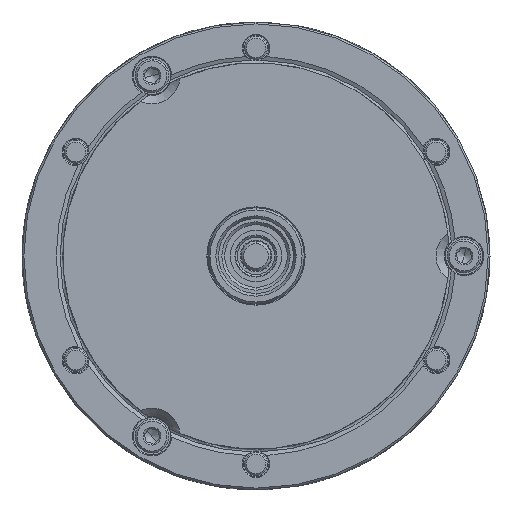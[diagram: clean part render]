
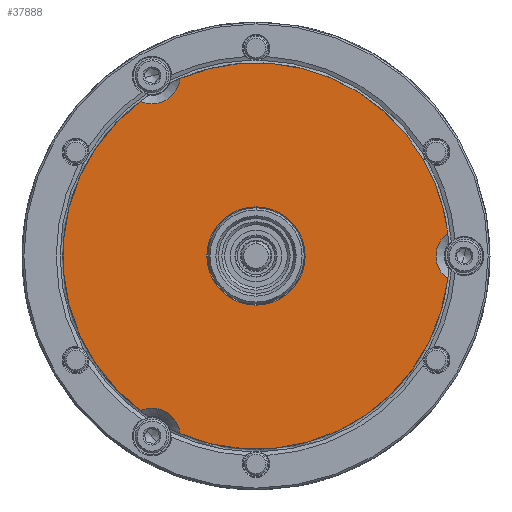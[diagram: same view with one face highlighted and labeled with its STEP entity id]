
A CAD part, left-side view. The second image highlights one B-rep face of the part: STEP entity #37888.
In plain terms, the highlighted planar face has unit normal (-1, 0, 0).
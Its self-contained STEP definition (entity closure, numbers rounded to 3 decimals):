
#718 = CARTESIAN_POINT ( 'NONE',  ( -57., -40.983, 4.897 ) ) ;
#1074 = ORIENTED_EDGE ( 'NONE', *, *, #2475, .F. ) ;
#1514 = CARTESIAN_POINT ( 'NONE',  ( -57., 24.733, 33.044 ) ) ;
#1904 = VERTEX_POINT ( 'NONE', #13366 ) ;
#2123 = ORIENTED_EDGE ( 'NONE', *, *, #17819, .F. ) ;
#2367 = CARTESIAN_POINT ( 'NONE',  ( -57., 0., 0. ) ) ;
#2475 = EDGE_CURVE ( 'NONE', #46901, #25204, #11680, .T. ) ;
#2569 = AXIS2_PLACEMENT_3D ( 'NONE', #25456, #32830, #13537 ) ;
#4179 = DIRECTION ( 'NONE',  ( 1., 0., 0. ) ) ;
#5149 = VERTEX_POINT ( 'NONE', #1514 ) ;
#5637 = VERTEX_POINT ( 'NONE', #7000 ) ;
#6355 = DIRECTION ( 'NONE',  ( 0., 0.866, 0.5 ) ) ;
#6423 = DIRECTION ( 'NONE',  ( -1., 0., 0. ) ) ;
#6865 = AXIS2_PLACEMENT_3D ( 'NONE', #38975, #4179, #40495 ) ;
#6920 = EDGE_CURVE ( 'NONE', #29253, #38784, #26119, .T. ) ;
#7000 = CARTESIAN_POINT ( 'NONE',  ( -57., 24.733, -33.044 ) ) ;
#8076 = DIRECTION ( 'NONE',  ( 0., -0.866, 0.5 ) ) ;
#8114 = AXIS2_PLACEMENT_3D ( 'NONE', #32281, #28978, #8893 ) ;
#8765 = ORIENTED_EDGE ( 'NONE', *, *, #20634, .F. ) ;
#8893 = DIRECTION ( 'NONE',  ( 0., -0.866, 0.5 ) ) ;
#9862 = DIRECTION ( 'NONE',  ( -1., 0., 0. ) ) ;
#9999 = CARTESIAN_POINT ( 'NONE',  ( -57., 16.251, 37.941 ) ) ;
#10475 = CIRCLE ( 'NONE', #49396, 41.275 ) ;
#11279 = VERTEX_POINT ( 'NONE', #718 ) ;
#11347 = CIRCLE ( 'NONE', #8114, 6. ) ;
#11680 = CIRCLE ( 'NONE', #25469, 10.5 ) ;
#11814 = PLANE ( 'NONE',  #6865 ) ;
#12358 = CIRCLE ( 'NONE', #39940, 41.275 ) ;
#12858 = ORIENTED_EDGE ( 'NONE', *, *, #6920, .T. ) ;
#13000 = EDGE_CURVE ( 'NONE', #29253, #5637, #49814, .T. ) ;
#13366 = CARTESIAN_POINT ( 'NONE',  ( -57., -35.745, 20.638 ) ) ;
#13537 = DIRECTION ( 'NONE',  ( 0., -0.866, 0.5 ) ) ;
#14067 = EDGE_LOOP ( 'NONE', ( #1074, #2123 ) ) ;
#17819 = EDGE_CURVE ( 'NONE', #25204, #46901, #26106, .T. ) ;
#18030 = DIRECTION ( 'NONE',  ( -1., 0., 0. ) ) ;
#18404 = ORIENTED_EDGE ( 'NONE', *, *, #13000, .F. ) ;
#18655 = CARTESIAN_POINT ( 'NONE',  ( -57., 0., 0. ) ) ;
#19663 = CARTESIAN_POINT ( 'NONE',  ( -57., 22.225, -38.495 ) ) ;
#20623 = AXIS2_PLACEMENT_3D ( 'NONE', #19663, #18030, #6355 ) ;
#20634 = EDGE_CURVE ( 'NONE', #5149, #36968, #11347, .T. ) ;
#20997 = EDGE_CURVE ( 'NONE', #11279, #1904, #10475, .T. ) ;
#21064 = ORIENTED_EDGE ( 'NONE', *, *, #35131, .T. ) ;
#21482 = DIRECTION ( 'NONE',  ( -1., 0., 0. ) ) ;
#21938 = DIRECTION ( 'NONE',  ( 0., -0.866, 0.5 ) ) ;
#22078 = CARTESIAN_POINT ( 'NONE',  ( -57., -9.093, 5.25 ) ) ;
#22876 = CIRCLE ( 'NONE', #36650, 41.275 ) ;
#24107 = DIRECTION ( 'NONE',  ( 0., -0.866, 0.5 ) ) ;
#25204 = VERTEX_POINT ( 'NONE', #35692 ) ;
#25456 = CARTESIAN_POINT ( 'NONE',  ( -57., 0., 0. ) ) ;
#25469 = AXIS2_PLACEMENT_3D ( 'NONE', #2367, #6423, #21938 ) ;
#25740 = ORIENTED_EDGE ( 'NONE', *, *, #29417, .T. ) ;
#26106 = CIRCLE ( 'NONE', #2569, 10.5 ) ;
#26119 = CIRCLE ( 'NONE', #47872, 41.275 ) ;
#27150 = CARTESIAN_POINT ( 'NONE',  ( -57., 0., 0. ) ) ;
#28978 = DIRECTION ( 'NONE',  ( -1., 0., 0. ) ) ;
#29253 = VERTEX_POINT ( 'NONE', #42559 ) ;
#29417 = EDGE_CURVE ( 'NONE', #5149, #5637, #22876, .T. ) ;
#29850 = CARTESIAN_POINT ( 'NONE',  ( -57., -44.45, 0. ) ) ;
#32223 = CARTESIAN_POINT ( 'NONE',  ( -57., 0., 0. ) ) ;
#32281 = CARTESIAN_POINT ( 'NONE',  ( -57., 22.225, 38.495 ) ) ;
#32830 = DIRECTION ( 'NONE',  ( -1., 0., 0. ) ) ;
#33388 = DIRECTION ( 'NONE',  ( -1., 0., 0. ) ) ;
#33399 = DIRECTION ( 'NONE',  ( 0., 0., -1. ) ) ;
#35131 = EDGE_CURVE ( 'NONE', #1904, #36968, #12358, .T. ) ;
#35692 = CARTESIAN_POINT ( 'NONE',  ( -57., 9.093, -5.25 ) ) ;
#36560 = CARTESIAN_POINT ( 'NONE',  ( -57., 0., 0. ) ) ;
#36650 = AXIS2_PLACEMENT_3D ( 'NONE', #18655, #33388, #36946 ) ;
#36946 = DIRECTION ( 'NONE',  ( 0., -0.866, 0.5 ) ) ;
#36968 = VERTEX_POINT ( 'NONE', #9999 ) ;
#37070 = DIRECTION ( 'NONE',  ( 0., -0.866, 0.5 ) ) ;
#37888 = ADVANCED_FACE ( 'NONE', ( #43783, #46588 ), #11814, .F. ) ;
#38784 = VERTEX_POINT ( 'NONE', #39049 ) ;
#38808 = EDGE_LOOP ( 'NONE', ( #25740, #18404, #12858, #49807, #46910, #21064, #8765 ) ) ;
#38975 = CARTESIAN_POINT ( 'NONE',  ( -57., 20.638, 35.745 ) ) ;
#39049 = CARTESIAN_POINT ( 'NONE',  ( -57., -40.983, -4.897 ) ) ;
#39940 = AXIS2_PLACEMENT_3D ( 'NONE', #36560, #9862, #37070 ) ;
#40495 = DIRECTION ( 'NONE',  ( 0., 0.866, -0.5 ) ) ;
#40579 = DIRECTION ( 'NONE',  ( -1., 0., 0. ) ) ;
#40927 = AXIS2_PLACEMENT_3D ( 'NONE', #29850, #21482, #33399 ) ;
#42559 = CARTESIAN_POINT ( 'NONE',  ( -57., 16.251, -37.941 ) ) ;
#42633 = EDGE_CURVE ( 'NONE', #11279, #38784, #49026, .T. ) ;
#43783 = FACE_BOUND ( 'NONE', #14067, .T. ) ;
#46417 = DIRECTION ( 'NONE',  ( -1., 0., 0. ) ) ;
#46588 = FACE_OUTER_BOUND ( 'NONE', #38808, .T. ) ;
#46901 = VERTEX_POINT ( 'NONE', #22078 ) ;
#46910 = ORIENTED_EDGE ( 'NONE', *, *, #20997, .T. ) ;
#47872 = AXIS2_PLACEMENT_3D ( 'NONE', #27150, #46417, #8076 ) ;
#49026 = CIRCLE ( 'NONE', #40927, 6. ) ;
#49396 = AXIS2_PLACEMENT_3D ( 'NONE', #32223, #40579, #24107 ) ;
#49807 = ORIENTED_EDGE ( 'NONE', *, *, #42633, .F. ) ;
#49814 = CIRCLE ( 'NONE', #20623, 6. ) ;
